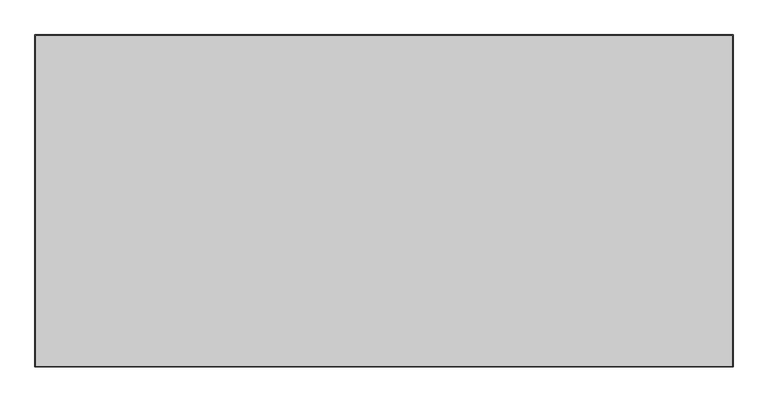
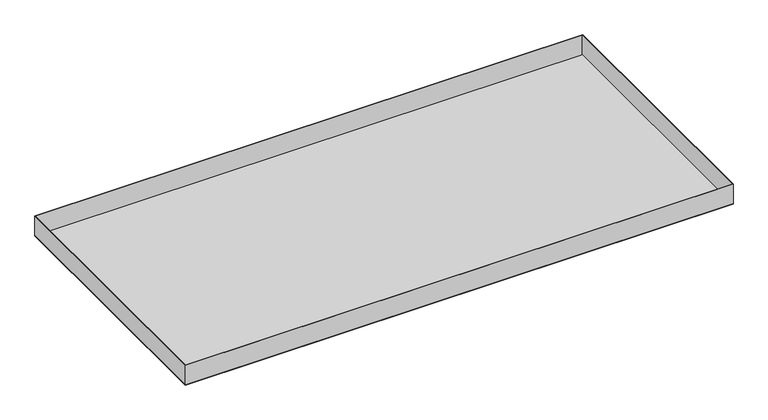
"""IFC4 building model written with IfcOpenShell, lengths in millimetres: proxy geometry, durlum_S5-150_RHOMBOS_panel : durlum_S5-150_RHOMBOS_panel_wall_width_cut."""

from ifc_helpers import new_model, si_unit, frame, origin, origin_with_axes, place, context, project, spatial, polyline, outline, extrude, source, transform, mapped, element, save


def generic_models_5ea52f49(model_context):
    return source(origin(), model_context, "Body", "SweptSolid", [
        extrude(outline(polyline([(524.5, 249.75), (524.5, -249.75), (-524.5, -249.75), (-524.5, 249.75), (524.5, 249.75)]), holes=[polyline([(523.5, 248.75), (-523.5, 248.75), (-523.5, -248.75), (523.5, -248.75), (523.5, 248.75)])]), frame((0.0, 0.0, 1.0), z_axis=(0.0, 0.0, 1.0), x_axis=(1.0, 0.0, 0.0)), (0.0, 0.0, 1.0), 39.0),
        extrude(outline(polyline([(524.5, 249.75), (524.5, -249.75), (-524.5, -249.75), (-524.5, 249.75), (524.5, 249.75)])), origin_with_axes(), (0.0, 0.0, 1.0), 1.0),
    ])


if __name__ == "__main__":
    model = new_model("IFC4")
    model_context = context("Model", 3, world=origin())
    ifc_project = project(units=[si_unit("LENGTHUNIT", "METRE", prefix="MILLI")], contexts=[model_context])
    site = spatial("IfcSite", under=ifc_project)
    building = spatial("IfcBuilding", under=site)
    placement = place(None, origin())
    generic_models_shape = generic_models_5ea52f49(model_context)
    element("IfcBuildingElementProxy", 1, Name="durlum_S5-150_RHOMBOS_panel : durlum_S5-150_RHOMBOS_panel_wall_width_cut", ObjectType="durlum_S5-150_RHOMBOS_panel : durlum_S5-150_RHOMBOS_panel_wall_width_cut", at=placement, inside=building, context=model_context, shape_type="MappedRepresentation", body=[
        mapped(generic_models_shape, transform((0.0, 0.0, 0.0), x_axis=(1.0, 0.0, 0.0), y_axis=(0.0, 1.0, 0.0), z_axis=(0.0, 0.0, 1.0))),
    ])
    save(model, "model.ifc")
